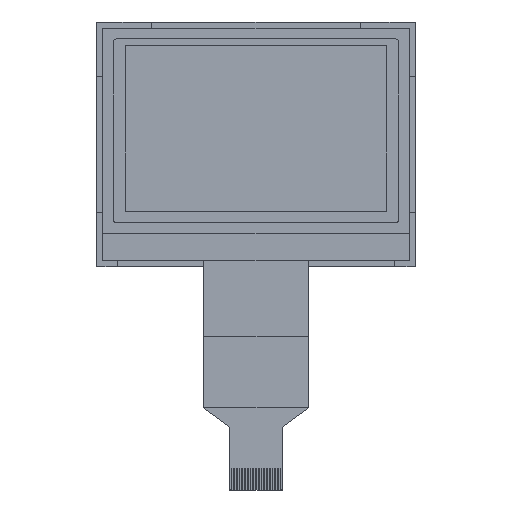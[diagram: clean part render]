
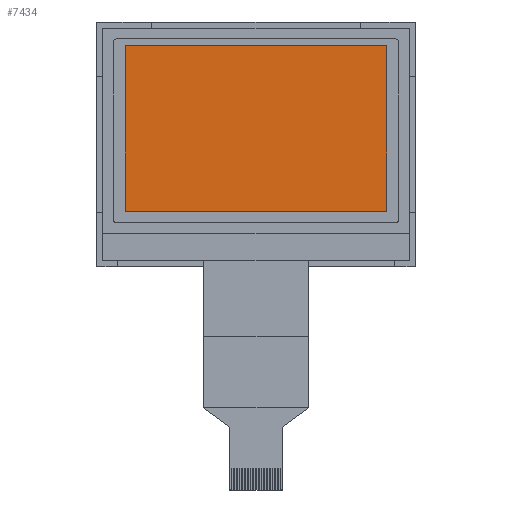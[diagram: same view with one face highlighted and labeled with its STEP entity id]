
A CAD part, top view. The second image highlights one B-rep face of the part: STEP entity #7434.
In plain terms, the highlighted planar face has unit normal (0, 0, 1).
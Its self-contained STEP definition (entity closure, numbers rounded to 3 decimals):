
#252 = VERTEX_POINT ( 'NONE', #663 ) ;
#417 = DIRECTION ( 'NONE',  ( 0., -1., 0. ) ) ;
#663 = CARTESIAN_POINT ( 'NONE',  ( 23.88, 15.145, 1.8 ) ) ;
#827 = EDGE_CURVE ( 'NONE', #2902, #2479, #4136, .T. ) ;
#835 = CARTESIAN_POINT ( 'NONE',  ( 0., -15.145, 1.8 ) ) ;
#1005 = CARTESIAN_POINT ( 'NONE',  ( 0., 15.145, 1.8 ) ) ;
#1045 = CARTESIAN_POINT ( 'NONE',  ( -23.88, -15.145, 1.8 ) ) ;
#1109 = CARTESIAN_POINT ( 'NONE',  ( -23.88, 15.145, 1.8 ) ) ;
#2246 = VECTOR ( 'NONE', #417, 1000. ) ;
#2250 = ORIENTED_EDGE ( 'NONE', *, *, #6195, .F. ) ;
#2297 = DIRECTION ( 'NONE',  ( 1., 0., 0. ) ) ;
#2479 = VERTEX_POINT ( 'NONE', #1045 ) ;
#2720 = CARTESIAN_POINT ( 'NONE',  ( 23.88, -15.145, 1.8 ) ) ;
#2893 = CARTESIAN_POINT ( 'NONE',  ( 0., 0., 1.8 ) ) ;
#2902 = VERTEX_POINT ( 'NONE', #2720 ) ;
#2984 = EDGE_CURVE ( 'NONE', #8468, #252, #8209, .T. ) ;
#3274 = EDGE_CURVE ( 'NONE', #252, #2902, #6896, .T. ) ;
#3288 = DIRECTION ( 'NONE',  ( -1., 0., 0. ) ) ;
#3765 = AXIS2_PLACEMENT_3D ( 'NONE', #2893, #6047, #4785 ) ;
#3894 = PLANE ( 'NONE',  #3765 ) ;
#4136 = LINE ( 'NONE', #835, #8453 ) ;
#4517 = FACE_OUTER_BOUND ( 'NONE', #7828, .T. ) ;
#4581 = ORIENTED_EDGE ( 'NONE', *, *, #3274, .F. ) ;
#4785 = DIRECTION ( 'NONE',  ( 1., 0., 0. ) ) ;
#4857 = CARTESIAN_POINT ( 'NONE',  ( 23.88, 0., 1.8 ) ) ;
#5162 = VECTOR ( 'NONE', #6558, 1000. ) ;
#5790 = LINE ( 'NONE', #8395, #5162 ) ;
#6047 = DIRECTION ( 'NONE',  ( 0., 0., 1. ) ) ;
#6195 = EDGE_CURVE ( 'NONE', #2479, #8468, #5790, .T. ) ;
#6558 = DIRECTION ( 'NONE',  ( 0., 1., 0. ) ) ;
#6856 = ORIENTED_EDGE ( 'NONE', *, *, #2984, .F. ) ;
#6896 = LINE ( 'NONE', #4857, #2246 ) ;
#6941 = VECTOR ( 'NONE', #2297, 1000. ) ;
#7434 = ADVANCED_FACE ( 'NONE', ( #4517 ), #3894, .T. ) ;
#7828 = EDGE_LOOP ( 'NONE', ( #2250, #8306, #4581, #6856 ) ) ;
#8209 = LINE ( 'NONE', #1005, #6941 ) ;
#8306 = ORIENTED_EDGE ( 'NONE', *, *, #827, .F. ) ;
#8395 = CARTESIAN_POINT ( 'NONE',  ( -23.88, 0., 1.8 ) ) ;
#8453 = VECTOR ( 'NONE', #3288, 1000. ) ;
#8468 = VERTEX_POINT ( 'NONE', #1109 ) ;
